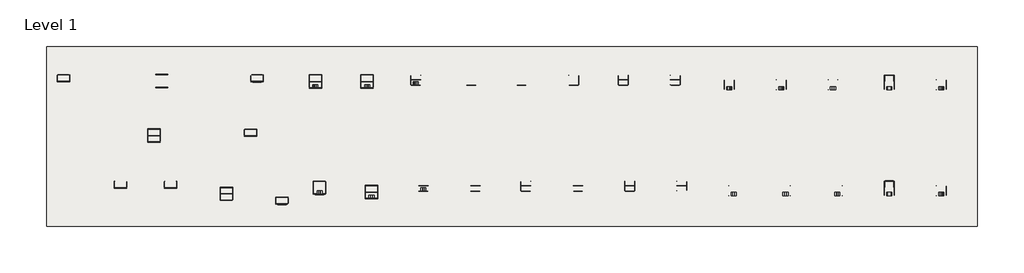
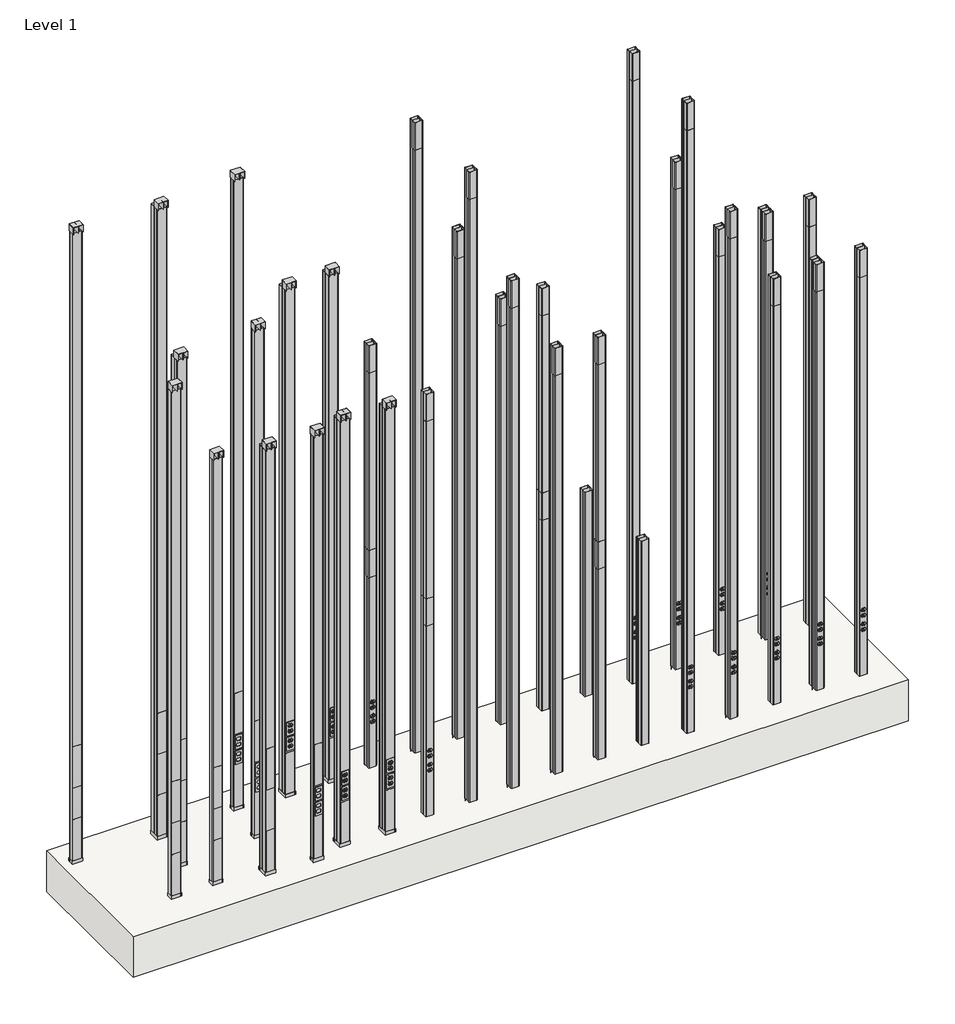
# One storey: 35 proxies, 1 slab.
"""IFC4 building model written with IfcOpenShell, lengths in millimetres."""

from ifc_helpers import new_model, si_unit, frame, origin, place, context, project, spatial, polyline, outline, extrude, transform, mapped, element, save
from components import electrical_fixtures_675e44b0, electrical_fixtures_6495d779, electrical_fixtures_249263cb, electrical_fixtures_8ffac198, electrical_fixtures_7f5814b6, proxy_25dtp_4d_030f9c97, proxy_25dtc_4_291f1991, proxy_25dtc_412_dea5110c, proxy_25dtc_412_dg_3b4139b7, proxy_25dtc_415_903e48b8, proxy_25dtp_4_c8c4ca56, proxy_25dtp_4_dg_e121ea05, proxy_25dtp_412_37fd066d, proxy_25dtp_415_fe98ae71, proxy_25dtp_4act_dfcec477, proxy_30tc_212v_eddba96f, proxy_30tc_215v_f620549f, proxy_30tc_2v_e36cc579, proxy_30tc_412v_e887f704, proxy_30tc_415v_3d708659, proxy_30tc_4v_ed44cb3a, proxy_30tp_212v_0b07aedb, proxy_30tp_215v_6feaa6b5, proxy_30tp_2v_cd16dc79, proxy_30tp_412v_0eb8b1ca, proxy_30tp_4v_2e4d9ae4

model = new_model("IFC4")

# Units and contexts
model_context = context("Model", 3, world=origin())
ifc_project = project(units=[si_unit("LENGTHUNIT", "METRE", prefix="MILLI")], contexts=[model_context])

# Site, building, storey
site = spatial("IfcSite", under=ifc_project)
building = spatial("IfcBuilding", under=site)
storey = spatial("IfcBuildingStorey", under=building, Name="Level 1", Elevation=0.0)

# Proxies
placement = place(None, origin())
electrical_fixtures_shape = electrical_fixtures_675e44b0(model_context)
element("IfcBuildingElementProxy", 1, Name="Vertical_Drop_Poles-Wiremold-Blank_Steel_Pole_Extender_5_Feet : 25DTC-E5", ObjectType="Vertical_Drop_Poles-Wiremold-Blank_Steel_Pole_Extender_5_Feet : 25DTC-E5", at=placement, inside=storey, context=model_context, shape_type="MappedRepresentation", body=[
    mapped(electrical_fixtures_shape, transform((2439.1995655, 1400.7042259, 0.0), x_axis=(1.0, 0.0, 0.0), y_axis=(0.0, 1.0, 0.0), z_axis=(0.0, 0.0, 1.0))),
])
element("IfcBuildingElementProxy", 2, Name="Vertical_Drop_Poles-Wiremold-Blank_Steel_Pole_Extender_5_Feet : 25DTC-E5-DG", ObjectType="Vertical_Drop_Poles-Wiremold-Blank_Steel_Pole_Extender_5_Feet : 25DTC-E5-DG", at=placement, inside=storey, context=model_context, shape_type="MappedRepresentation", body=[
    mapped(electrical_fixtures_shape, transform((2401.0995655, 2023.0042259, 0.0), x_axis=(1.0, 0.0, 0.0), y_axis=(0.0, 1.0, 0.0), z_axis=(0.0, 0.0, 1.0))),
])
electrical_fixtures_2_shape = electrical_fixtures_6495d779(model_context)
element("IfcBuildingElementProxy", 3, Name="Vertical_Drop_Poles-Wiremold-Blank_Steel_Pole_Extender_10_Feet : 25DTC-E10", ObjectType="Vertical_Drop_Poles-Wiremold-Blank_Steel_Pole_Extender_10_Feet : 25DTC-E10", at=placement, inside=storey, context=model_context, shape_type="MappedRepresentation", body=[
    mapped(electrical_fixtures_2_shape, transform((2134.3995655, 1368.9386009, 0.0), x_axis=(1.0, 0.0, 0.0), y_axis=(0.0, 1.0, 0.0), z_axis=(0.0, 0.0, 1.0))),
])
element("IfcBuildingElementProxy", 4, Name="Vertical_Drop_Poles-Wiremold-Blank_Steel_Pole_Extender_10_Feet : 25DTC-E10-DG", ObjectType="Vertical_Drop_Poles-Wiremold-Blank_Steel_Pole_Extender_10_Feet : 25DTC-E10-DG", at=placement, inside=storey, context=model_context, shape_type="MappedRepresentation", body=[
    mapped(electrical_fixtures_2_shape, transform((2096.2995655, 1991.2386009, 0.0), x_axis=(1.0, 0.0, 0.0), y_axis=(0.0, 1.0, 0.0), z_axis=(0.0, 0.0, 1.0))),
])
electrical_fixtures_3_shape = electrical_fixtures_249263cb(model_context)
element("IfcBuildingElementProxy", 5, Name="Vertical_Drop_Poles-Wiremold-Steel_Tele-Power_Pole_Extender : 25DTP-E10", ObjectType="Vertical_Drop_Poles-Wiremold-Steel_Tele-Power_Pole_Extender : 25DTP-E10", at=placement, inside=storey, context=model_context, shape_type="MappedRepresentation", body=[
    mapped(electrical_fixtures_3_shape, transform((922.3433078, 1368.9386009, 0.0), x_axis=(1.0, 0.0, 0.0), y_axis=(0.0, 1.0, 0.0), z_axis=(0.0, 0.0, 1.0))),
])
element("IfcBuildingElementProxy", 6, Name="Vertical_Drop_Poles-Wiremold-Steel_Tele-Power_Pole_Extender : 25DTP-E10-DG", ObjectType="Vertical_Drop_Poles-Wiremold-Steel_Tele-Power_Pole_Extender : 25DTP-E10-DG", at=placement, inside=storey, context=model_context, shape_type="MappedRepresentation", body=[
    mapped(electrical_fixtures_3_shape, transform((877.8933078, 1991.2386009, 0.0), x_axis=(1.0, 0.0, 0.0), y_axis=(0.0, 1.0, 0.0), z_axis=(0.0, 0.0, 1.0))),
])
electrical_fixtures_4_shape = electrical_fixtures_8ffac198(model_context)
element("IfcBuildingElementProxy", 7, Name="Vertical_Drop_Pole-Wiremold-Tele_Power_Pole-4V : 30TP-4V3S2", ObjectType="Vertical_Drop_Pole-Wiremold-Tele_Power_Pole-4V : 30TP-4V3S2", at=placement, inside=storey, context=model_context, shape_type="MappedRepresentation", body=[
    mapped(electrical_fixtures_4_shape, transform((312.7433078, 1347.7574897, 0.0), x_axis=(1.0, 0.0, 0.0), y_axis=(0.0, 1.0, 0.0), z_axis=(0.0, 0.0, 1.0))),
])
electrical_fixtures_5_shape = electrical_fixtures_7f5814b6(model_context)
element("IfcBuildingElementProxy", 8, Name="Vertical_Drop_Pole-Wiremold-Tele_Power_Pole-4V : 30TP-412V3S2", ObjectType="Vertical_Drop_Pole-Wiremold-Tele_Power_Pole-4V : 30TP-412V3S2", at=placement, inside=storey, context=model_context, shape_type="MappedRepresentation", body=[
    mapped(electrical_fixtures_5_shape, transform((287.3433078, 1972.0574897, 0.0), x_axis=(1.0, 0.0, 0.0), y_axis=(0.0, 1.0, 0.0), z_axis=(0.0, 0.0, 1.0))),
])
proxy_25dtp_4d_shape = proxy_25dtp_4d_030f9c97(model_context)
element("IfcBuildingElementProxy", 9, Name="Vertical_Drop_Poles-Wiremold-Steel_Tele-Power_Pole : 25DTP-4D-DG", ObjectType="Vertical_Drop_Poles-Wiremold-Steel_Tele-Power_Pole : 25DTP-4D-DG", at=placement, inside=storey, context=model_context, shape_type="MappedRepresentation", body=[
    mapped(proxy_25dtp_4d_shape, transform((3328.1995655, 1963.7829678, 0.0), x_axis=(1.0, 0.0, 0.0), y_axis=(0.0, 1.0, 0.0), z_axis=(0.0, 0.0, 1.0))),
])
proxy_25dtc_4_shape = proxy_25dtc_4_291f1991(model_context)
element("IfcBuildingElementProxy", 10, Name="Vertical_Drop_Poles-Wiremold-Blank_Steel_Pole : 25DTC-4", ObjectType="Vertical_Drop_Poles-Wiremold-Blank_Steel_Pole : 25DTC-4", at=placement, inside=storey, context=model_context, shape_type="MappedRepresentation", body=[
    mapped(proxy_25dtc_4_shape, transform((1830.3933232, 1368.9386009, 0.0), x_axis=(1.0, 0.0, 0.0), y_axis=(0.0, 1.0, 0.0), z_axis=(0.0, 0.0, 1.0))),
])
element("IfcBuildingElementProxy", 11, Name="Vertical_Drop_Poles-Wiremold-Blank_Steel_Pole : 25DTC-4-DG", ObjectType="Vertical_Drop_Poles-Wiremold-Blank_Steel_Pole : 25DTC-4-DG", at=placement, inside=storey, context=model_context, shape_type="MappedRepresentation", body=[
    mapped(proxy_25dtc_4_shape, transform((1804.9933232, 1991.2386009, 0.0), x_axis=(1.0, 0.0, 0.0), y_axis=(0.0, 1.0, 0.0), z_axis=(0.0, 0.0, 1.0))),
])
proxy_25dtc_412_shape = proxy_25dtc_412_dea5110c(model_context)
element("IfcBuildingElementProxy", 12, Name="Vertical_Drop_Poles-Wiremold-Blank_Steel_Pole : 25DTC-412", ObjectType="Vertical_Drop_Poles-Wiremold-Blank_Steel_Pole : 25DTC-412", at=placement, inside=storey, context=model_context, shape_type="MappedRepresentation", body=[
    mapped(proxy_25dtc_412_shape, transform((1524.0058232, 1368.9386009, 0.0), x_axis=(1.0, 0.0, 0.0), y_axis=(0.0, 1.0, 0.0), z_axis=(0.0, 0.0, 1.0))),
])
proxy_25dtc_412_dg_shape = proxy_25dtc_412_dg_3b4139b7(model_context)
element("IfcBuildingElementProxy", 13, Name="Vertical_Drop_Poles-Wiremold-Blank_Steel_Pole : 25DTC-412-DG", ObjectType="Vertical_Drop_Poles-Wiremold-Blank_Steel_Pole : 25DTC-412-DG", at=placement, inside=storey, context=model_context, shape_type="MappedRepresentation", body=[
    mapped(proxy_25dtc_412_dg_shape, transform((1498.6058232, 1991.2386009, 0.0), x_axis=(1.0, 0.0, 0.0), y_axis=(0.0, 1.0, 0.0), z_axis=(0.0, 0.0, 1.0))),
])
proxy_25dtc_415_shape = proxy_25dtc_415_903e48b8(model_context)
element("IfcBuildingElementProxy", 14, Name="Vertical_Drop_Poles-Wiremold-Blank_Steel_Pole : 25DTC-415", ObjectType="Vertical_Drop_Poles-Wiremold-Blank_Steel_Pole : 25DTC-415", at=placement, inside=storey, context=model_context, shape_type="MappedRepresentation", body=[
    mapped(proxy_25dtc_415_shape, transform((1227.9370655, 1368.9386009, 0.0), x_axis=(1.0, 0.0, 0.0), y_axis=(0.0, 1.0, 0.0), z_axis=(0.0, 0.0, 1.0))),
])
element("IfcBuildingElementProxy", 15, Name="Vertical_Drop_Poles-Wiremold-Blank_Steel_Pole : 25DTC-415-DG", ObjectType="Vertical_Drop_Poles-Wiremold-Blank_Steel_Pole : 25DTC-415-DG", at=placement, inside=storey, context=model_context, shape_type="MappedRepresentation", body=[
    mapped(proxy_25dtc_415_shape, transform((1202.5370655, 1991.2386009, 0.0), x_axis=(1.0, 0.0, 0.0), y_axis=(0.0, 1.0, 0.0), z_axis=(0.0, 0.0, 1.0))),
])
proxy_25dtp_4_shape = proxy_25dtp_4_c8c4ca56(model_context)
element("IfcBuildingElementProxy", 16, Name="Vertical_Drop_Poles-Wiremold-Steel_Tele-Power_Pole : 25DTP-4", ObjectType="Vertical_Drop_Poles-Wiremold-Steel_Tele-Power_Pole : 25DTP-4", at=placement, inside=storey, context=model_context, shape_type="MappedRepresentation", body=[
    mapped(proxy_25dtp_4_shape, transform((3963.1995655, 1341.4829678, 0.0), x_axis=(1.0, 0.0, 0.0), y_axis=(0.0, 1.0, 0.0), z_axis=(0.0, 0.0, 1.0))),
])
proxy_25dtp_4_dg_shape = proxy_25dtp_4_dg_e121ea05(model_context)
element("IfcBuildingElementProxy", 17, Name="Vertical_Drop_Poles-Wiremold-Steel_Tele-Power_Pole : 25DTP-4-DG", ObjectType="Vertical_Drop_Poles-Wiremold-Steel_Tele-Power_Pole : 25DTP-4-DG", at=placement, inside=storey, context=model_context, shape_type="MappedRepresentation", body=[
    mapped(proxy_25dtp_4_dg_shape, transform((3963.1995655, 1963.7829678, 0.0), x_axis=(1.0, 0.0, 0.0), y_axis=(0.0, 1.0, 0.0), z_axis=(0.0, 0.0, 1.0))),
])
proxy_25dtp_412_shape = proxy_25dtp_412_37fd066d(model_context)
element("IfcBuildingElementProxy", 18, Name="Vertical_Drop_Poles-Wiremold-Steel_Tele-Power_Pole : 25DTP-412", ObjectType="Vertical_Drop_Poles-Wiremold-Steel_Tele-Power_Pole : 25DTP-412", at=placement, inside=storey, context=model_context, shape_type="MappedRepresentation", body=[
    mapped(proxy_25dtp_412_shape, transform((3048.7995655, 1341.4829678, 0.0), x_axis=(1.0, 0.0, 0.0), y_axis=(0.0, 1.0, 0.0), z_axis=(0.0, 0.0, 1.0))),
])
element("IfcBuildingElementProxy", 19, Name="Vertical_Drop_Poles-Wiremold-Steel_Tele-Power_Pole : 25DTP-412-DG", ObjectType="Vertical_Drop_Poles-Wiremold-Steel_Tele-Power_Pole : 25DTP-412-DG", at=placement, inside=storey, context=model_context, shape_type="MappedRepresentation", body=[
    mapped(proxy_25dtp_412_shape, transform((3023.3995655, 1963.7829678, 0.0), x_axis=(1.0, 0.0, 0.0), y_axis=(0.0, 1.0, 0.0), z_axis=(0.0, 0.0, 1.0))),
])
proxy_25dtp_415_shape = proxy_25dtp_415_fe98ae71(model_context)
element("IfcBuildingElementProxy", 20, Name="Vertical_Drop_Poles-Wiremold-Steel_Tele-Power_Pole : 25DTP-415", ObjectType="Vertical_Drop_Poles-Wiremold-Steel_Tele-Power_Pole : 25DTP-415", at=placement, inside=storey, context=model_context, shape_type="MappedRepresentation", body=[
    mapped(proxy_25dtp_415_shape, transform((2743.9995655, 1341.4829678, 0.0), x_axis=(1.0, 0.0, 0.0), y_axis=(0.0, 1.0, 0.0), z_axis=(0.0, 0.0, 1.0))),
])
element("IfcBuildingElementProxy", 21, Name="Vertical_Drop_Poles-Wiremold-Steel_Tele-Power_Pole : 25DTP-415-DG", ObjectType="Vertical_Drop_Poles-Wiremold-Steel_Tele-Power_Pole : 25DTP-415-DG", at=placement, inside=storey, context=model_context, shape_type="MappedRepresentation", body=[
    mapped(proxy_25dtp_415_shape, transform((2718.5995655, 1963.7829678, 0.0), x_axis=(1.0, 0.0, 0.0), y_axis=(0.0, 1.0, 0.0), z_axis=(0.0, 0.0, 1.0))),
])
proxy_25dtp_4act_shape = proxy_25dtp_4act_dfcec477(model_context)
element("IfcBuildingElementProxy", 22, Name="Vertical_Drop_Poles-Wiremold-Steel_Tele-Power_Pole : 25DTP-4ACT", ObjectType="Vertical_Drop_Poles-Wiremold-Steel_Tele-Power_Pole : 25DTP-4ACT", at=placement, inside=storey, context=model_context, shape_type="MappedRepresentation", body=[
    mapped(proxy_25dtp_4act_shape, transform((3658.3995655, 1341.4829678, 0.0), x_axis=(1.0, 0.0, 0.0), y_axis=(0.0, 1.0, 0.0), z_axis=(0.0, 0.0, 1.0))),
])
element("IfcBuildingElementProxy", 23, Name="Vertical_Drop_Poles-Wiremold-Steel_Tele-Power_Pole : 25DTP-4ACT-DG", ObjectType="Vertical_Drop_Poles-Wiremold-Steel_Tele-Power_Pole : 25DTP-4ACT-DG", at=placement, inside=storey, context=model_context, shape_type="MappedRepresentation", body=[
    mapped(proxy_25dtp_4act_shape, transform((3658.3995655, 1963.7829678, 0.0), x_axis=(1.0, 0.0, 0.0), y_axis=(0.0, 1.0, 0.0), z_axis=(0.0, 0.0, 1.0))),
])
element("IfcBuildingElementProxy", 24, Name="Vertical_Drop_Poles-Wiremold-Steel_Tele-Power_Pole : 25DTP-4D", ObjectType="Vertical_Drop_Poles-Wiremold-Steel_Tele-Power_Pole : 25DTP-4D", at=placement, inside=storey, context=model_context, shape_type="MappedRepresentation", body=[
    mapped(proxy_25dtp_4d_shape, transform((3353.5995655, 1341.4829678, 0.0), x_axis=(1.0, 0.0, 0.0), y_axis=(0.0, 1.0, 0.0), z_axis=(0.0, 0.0, 1.0))),
])
proxy_30tc_212v_shape = proxy_30tc_212v_eddba96f(model_context)
element("IfcBuildingElementProxy", 25, Name="Vertical_Drop_Pole-Wiremold-Blank_Steel_Pole_Single_Compartment : 30TC-212V", ObjectType="Vertical_Drop_Pole-Wiremold-Blank_Steel_Pole_Single_Compartment : 30TC-212V", at=placement, inside=storey, context=model_context, shape_type="MappedRepresentation", body=[
    mapped(proxy_30tc_212v_shape, transform((-855.6566922, 1403.6324897, 0.0), x_axis=(1.0, 0.0, 0.0), y_axis=(0.0, 1.0, 0.0), z_axis=(0.0, 0.0, 1.0))),
])
proxy_30tc_215v_shape = proxy_30tc_215v_f620549f(model_context)
element("IfcBuildingElementProxy", 26, Name="Vertical_Drop_Pole-Wiremold-Blank_Steel_Pole_Single_Compartment : 30TC-215V", ObjectType="Vertical_Drop_Pole-Wiremold-Blank_Steel_Pole_Single_Compartment : 30TC-215V", at=placement, inside=storey, context=model_context, shape_type="MappedRepresentation", body=[
    mapped(proxy_30tc_215v_shape, transform((-1192.2066922, 2027.9324897, 0.0), x_axis=(1.0, 0.0, 0.0), y_axis=(0.0, 1.0, 0.0), z_axis=(0.0, 0.0, 1.0))),
])
proxy_30tc_2v_shape = proxy_30tc_2v_e36cc579(model_context)
element("IfcBuildingElementProxy", 27, Name="Vertical_Drop_Pole-Wiremold-Blank_Steel_Pole_Single_Compartment : 30TC-2V", ObjectType="Vertical_Drop_Pole-Wiremold-Blank_Steel_Pole_Single_Compartment : 30TC-2V", at=placement, inside=storey, context=model_context, shape_type="MappedRepresentation", body=[
    mapped(proxy_30tc_2v_shape, transform((-563.5566922, 1403.6324897, 0.0), x_axis=(1.0, 0.0, 0.0), y_axis=(0.0, 1.0, 0.0), z_axis=(0.0, 0.0, 1.0))),
])
proxy_30tc_412v_shape = proxy_30tc_412v_e887f704(model_context)
element("IfcBuildingElementProxy", 28, Name="Vertical_Drop_Pole-Wiremold-Blank_Steel_Pole_Two_Compartment : 30TC-412V", ObjectType="Vertical_Drop_Pole-Wiremold-Blank_Steel_Pole_Two_Compartment : 30TC-412V", at=placement, inside=storey, context=model_context, shape_type="MappedRepresentation", body=[
    mapped(proxy_30tc_412v_shape, transform((-658.8066922, 1654.5574897, 0.0), x_axis=(1.0, 0.0, 0.0), y_axis=(0.0, 1.0, 0.0), z_axis=(0.0, 0.0, 1.0))),
])
proxy_30tc_415v_shape = proxy_30tc_415v_3d708659(model_context)
element("IfcBuildingElementProxy", 29, Name="Vertical_Drop_Pole-Wiremold-Blank_Steel_Pole_Two_Compartment : 30TC-415V", ObjectType="Vertical_Drop_Pole-Wiremold-Blank_Steel_Pole_Two_Compartment : 30TC-415V", at=placement, inside=storey, context=model_context, shape_type="MappedRepresentation", body=[
    mapped(proxy_30tc_415v_shape, transform((-614.3566922, 1974.0574897, 0.0), x_axis=(1.0, 0.0, 0.0), y_axis=(0.0, 1.0, 0.0), z_axis=(0.0, 0.0, 1.0))),
])
proxy_30tc_4v_shape = proxy_30tc_4v_ed44cb3a(model_context)
element("IfcBuildingElementProxy", 30, Name="Vertical_Drop_Pole-Wiremold-Blank_Steel_Pole_Two_Compartment : 30TC-4V", ObjectType="Vertical_Drop_Pole-Wiremold-Blank_Steel_Pole_Two_Compartment : 30TC-4V", at=placement, inside=storey, context=model_context, shape_type="MappedRepresentation", body=[
    mapped(proxy_30tc_4v_shape, transform((-233.3566922, 1311.6574897, 0.0), x_axis=(1.0, 0.0, 0.0), y_axis=(0.0, 1.0, 0.0), z_axis=(0.0, 0.0, 1.0))),
])
proxy_30tp_212v_shape = proxy_30tp_212v_0b07aedb(model_context)
element("IfcBuildingElementProxy", 31, Name="Vertical_Drop_Pole-Wiremold-Tele_Power_Pole-2V : 30TP-212V", ObjectType="Vertical_Drop_Pole-Wiremold-Tele_Power_Pole-2V : 30TP-212V", at=placement, inside=storey, context=model_context, shape_type="MappedRepresentation", body=[
    mapped(proxy_30tp_212v_shape, transform((-93.6566922, 1708.4324897, 0.0), x_axis=(1.0, 0.0, 0.0), y_axis=(0.0, 1.0, 0.0), z_axis=(0.0, 0.0, 1.0))),
])
proxy_30tp_215v_shape = proxy_30tp_215v_6feaa6b5(model_context)
element("IfcBuildingElementProxy", 32, Name="Vertical_Drop_Pole-Wiremold-Tele_Power_Pole-2V : 30TP-215V", ObjectType="Vertical_Drop_Pole-Wiremold-Tele_Power_Pole-2V : 30TP-215V", at=placement, inside=storey, context=model_context, shape_type="MappedRepresentation", body=[
    mapped(proxy_30tp_215v_shape, transform((-55.5566922, 2027.9324897, 0.0), x_axis=(1.0, 0.0, 0.0), y_axis=(0.0, 1.0, 0.0), z_axis=(0.0, 0.0, 1.0))),
])
proxy_30tp_2v_shape = proxy_30tp_2v_cd16dc79(model_context)
element("IfcBuildingElementProxy", 33, Name="Vertical_Drop_Pole-Wiremold-Tele_Power_Pole-2V : 30TP-2V", ObjectType="Vertical_Drop_Pole-Wiremold-Tele_Power_Pole-2V : 30TP-2V", at=placement, inside=storey, context=model_context, shape_type="MappedRepresentation", body=[
    mapped(proxy_30tp_2v_shape, transform((92.4475399, 1308.044443, 0.0), x_axis=(1.0, 0.0, 0.0), y_axis=(0.0, 1.0, 0.0), z_axis=(0.0, 0.0, 1.0))),
])
proxy_30tp_412v_shape = proxy_30tp_412v_0eb8b1ca(model_context)
element("IfcBuildingElementProxy", 34, Name="Vertical_Drop_Pole-Wiremold-Tele_Power_Pole-4V : 30TP-412V", ObjectType="Vertical_Drop_Pole-Wiremold-Tele_Power_Pole-4V : 30TP-412V", at=placement, inside=storey, context=model_context, shape_type="MappedRepresentation", body=[
    mapped(proxy_30tp_412v_shape, transform((592.1433078, 1972.0574897, 0.0), x_axis=(1.0, 0.0, 0.0), y_axis=(0.0, 1.0, 0.0), z_axis=(0.0, 0.0, 1.0))),
])
proxy_30tp_4v_shape = proxy_30tp_4v_2e4d9ae4(model_context)
element("IfcBuildingElementProxy", 35, Name="Vertical_Drop_Pole-Wiremold-Tele_Power_Pole-4V : 30TP-4V", ObjectType="Vertical_Drop_Pole-Wiremold-Tele_Power_Pole-4V : 30TP-4V", at=placement, inside=storey, context=model_context, shape_type="MappedRepresentation", body=[
    mapped(proxy_30tp_4v_shape, transform((617.5433078, 1322.3574897, 0.0), x_axis=(1.0, 0.0, 0.0), y_axis=(0.0, 1.0, 0.0), z_axis=(0.0, 0.0, 1.0))),
])

# Slab
element("IfcSlab", 36, ObjectType="Generic - 12\"", at=placement, inside=storey, context=model_context, shape_type="SweptSolid", body=[
    extrude(outline(polyline([(4176.3473575, 2217.1766815), (4176.3473575, 1160.894622), (-1291.0026425, 1160.894622), (-1291.0026425, 2217.1766815), (4176.3473575, 2217.1766815)])), frame((0.0, 0.0, -304.8), z_axis=(0.0, 0.0, 1.0), x_axis=(1.0, 0.0, 0.0)), (0.0, 0.0, 1.0), 304.8),
])

save(model, "model.ifc")
